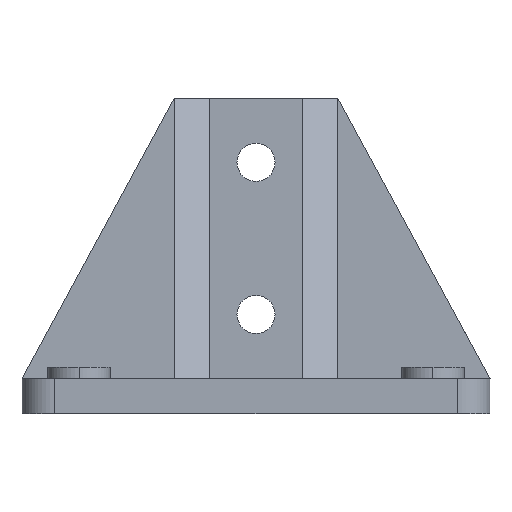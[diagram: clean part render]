
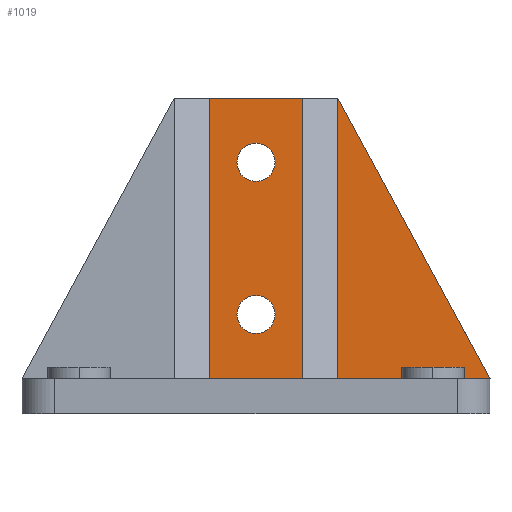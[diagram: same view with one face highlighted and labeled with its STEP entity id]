
A CAD part, front view. The second image highlights one B-rep face of the part: STEP entity #1019.
In plain terms, the highlighted planar face has unit normal (0, -1, 0).
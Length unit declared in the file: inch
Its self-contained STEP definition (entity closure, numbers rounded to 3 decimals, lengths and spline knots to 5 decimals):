
#415=EDGE_CURVE('',#1100,#1057,#1125,.T.);
#419=EDGE_CURVE('',#1130,#1131,#1132,.T.);
#487=EDGE_CURVE('',#1247,#1248,#1249,.T.);
#509=EDGE_CURVE('',#1248,#1100,#1284,.T.);
#511=EDGE_CURVE('',#1260,#1286,#1287,.T.);
#517=EDGE_CURVE('',#1295,#1296,#1297,.T.);
#557=EDGE_CURVE('',#1296,#1130,#1363,.T.);
#597=EDGE_CURVE('',#1286,#1057,#1428,.T.);
#637=EDGE_CURVE('',#1486,#1260,#1487,.T.);
#695=EDGE_CURVE('',#1158,#1387,#1575,.T.);
#811=EDGE_CURVE('',#1387,#1436,#1722,.T.);
#835=EDGE_CURVE('',#1131,#1295,#1751,.T.);
#877=EDGE_CURVE('',#1436,#1402,#1798,.T.);
#891=EDGE_CURVE('',#1402,#1158,#1816,.T.);
#977=EDGE_CURVE('',#1486,#1247,#1918,.T.);
#1019=ADVANCED_FACE('',(#1968,#1969,#1970),#1971,.T.);
#1057=VERTEX_POINT('',#2032);
#1100=VERTEX_POINT('',#2117);
#1125=LINE('',#2163,#2164);
#1130=VERTEX_POINT('',#2177);
#1131=VERTEX_POINT('',#2178);
#1132=B_SPLINE_CURVE_WITH_KNOTS('',3,(#2179,#2180,#2181,#2182),.UNSPECIFIED.,.F.,.F.,(4,4),(0.0,1.0),.UNSPECIFIED.);
#1158=VERTEX_POINT('',#2243);
#1247=VERTEX_POINT('',#2415);
#1248=VERTEX_POINT('',#2416);
#1249=LINE('',#2417,#2418);
#1260=VERTEX_POINT('',#2439);
#1284=LINE('',#2482,#2483);
#1286=VERTEX_POINT('',#2486);
#1287=LINE('',#2487,#2488);
#1295=VERTEX_POINT('',#2506);
#1296=VERTEX_POINT('',#2507);
#1297=B_SPLINE_CURVE_WITH_KNOTS('',3,(#2508,#2509,#2510,#2511),.UNSPECIFIED.,.F.,.F.,(4,4),(0.0,1.0),.UNSPECIFIED.);
#1363=B_SPLINE_CURVE_WITH_KNOTS('',3,(#2633,#2634,#2635,#2636),.UNSPECIFIED.,.F.,.F.,(4,4),(0.0,1.0),.UNSPECIFIED.);
#1387=VERTEX_POINT('',#2676);
#1402=VERTEX_POINT('',#2706);
#1428=LINE('',#2749,#2750);
#1436=VERTEX_POINT('',#2761);
#1486=VERTEX_POINT('',#2875);
#1487=LINE('',#2876,#2877);
#1575=B_SPLINE_CURVE_WITH_KNOTS('',3,(#3036,#3037,#3038,#3039),.UNSPECIFIED.,.F.,.F.,(4,4),(0.0,1.0),.UNSPECIFIED.);
#1722=B_SPLINE_CURVE_WITH_KNOTS('',3,(#3354,#3355,#3356,#3357),.UNSPECIFIED.,.F.,.F.,(4,4),(0.0,1.0),.UNSPECIFIED.);
#1751=B_SPLINE_CURVE_WITH_KNOTS('',3,(#3418,#3419,#3420,#3421),.UNSPECIFIED.,.F.,.F.,(4,4),(0.0,1.0),.UNSPECIFIED.);
#1798=B_SPLINE_CURVE_WITH_KNOTS('',3,(#3534,#3535,#3536,#3537),.UNSPECIFIED.,.F.,.F.,(4,4),(0.0,1.0),.UNSPECIFIED.);
#1816=B_SPLINE_CURVE_WITH_KNOTS('',3,(#3569,#3570,#3571,#3572),.UNSPECIFIED.,.F.,.F.,(4,4),(0.0,1.0),.UNSPECIFIED.);
#1918=LINE('',#3833,#3834);
#1968=FACE_OUTER_BOUND('',#3941,.T.);
#1969=FACE_BOUND('',#3942,.T.);
#1970=FACE_BOUND('',#3943,.T.);
#1971=PLANE('',#3944);
#2032=CARTESIAN_POINT('',(1.79637,0.,0.00001));
#2117=CARTESIAN_POINT('',(2.17137,0.0,0.00001));
#2163=CARTESIAN_POINT('',(2.23387,0.,0.00001));
#2164=VECTOR('',#4032,1.0);
#2177=CARTESIAN_POINT('',(2.67137,0.,2.51563));
#2178=CARTESIAN_POINT('',(2.8745,0.,2.31249));
#2179=CARTESIAN_POINT('',(2.67137,0.,2.51563));
#2180=CARTESIAN_POINT('',(2.78357,0.,2.51563));
#2181=CARTESIAN_POINT('',(2.8745,0.,2.42469));
#2182=CARTESIAN_POINT('',(2.8745,0.0,2.31249));
#2243=CARTESIAN_POINT('',(2.67137,0.,0.48437));
#2415=CARTESIAN_POINT('',(3.54637,0.,3.0));
#2416=CARTESIAN_POINT('',(2.17137,0.0,3.0));
#2417=CARTESIAN_POINT('',(3.54637,0.,3.0));
#2418=VECTOR('',#4131,1.0);
#2439=CARTESIAN_POINT('',(5.17119,0.,0.0));
#2482=CARTESIAN_POINT('',(2.17137,0.,0.59836));
#2483=VECTOR('',#4175,1.0);
#2486=CARTESIAN_POINT('',(1.79637,0.,0.0));
#2487=CARTESIAN_POINT('',(3.54637,0.,0.0));
#2488=VECTOR('',#4176,1.0);
#2506=CARTESIAN_POINT('',(2.67137,0.,2.10937));
#2507=CARTESIAN_POINT('',(2.46825,0.,2.31249));
#2508=CARTESIAN_POINT('',(2.67137,0.,2.10937));
#2509=CARTESIAN_POINT('',(2.5592,0.,2.10937));
#2510=CARTESIAN_POINT('',(2.46825,0.,2.20032));
#2511=CARTESIAN_POINT('',(2.46825,0.,2.31249));
#2633=CARTESIAN_POINT('',(2.46825,0.,2.31249));
#2634=CARTESIAN_POINT('',(2.46825,0.,2.42469));
#2635=CARTESIAN_POINT('',(2.5592,0.,2.51563));
#2636=CARTESIAN_POINT('',(2.67137,0.,2.51563));
#2676=CARTESIAN_POINT('',(2.46825,0.,0.68749));
#2706=CARTESIAN_POINT('',(2.8745,0.,0.68749));
#2749=CARTESIAN_POINT('',(1.79637,0.,0.0));
#2750=VECTOR('',#4319,1.0);
#2761=CARTESIAN_POINT('',(2.67137,0.,0.89062));
#2875=CARTESIAN_POINT('',(3.54637,0.,2.99966));
#2876=CARTESIAN_POINT('',(3.54619,0.,2.99999));
#2877=VECTOR('',#4363,1.0);
#3036=CARTESIAN_POINT('',(2.67137,0.,0.48437));
#3037=CARTESIAN_POINT('',(2.5592,0.,0.48437));
#3038=CARTESIAN_POINT('',(2.46825,0.,0.57532));
#3039=CARTESIAN_POINT('',(2.46825,0.,0.68749));
#3354=CARTESIAN_POINT('',(2.46825,0.,0.68749));
#3355=CARTESIAN_POINT('',(2.46825,0.,0.79969));
#3356=CARTESIAN_POINT('',(2.5592,0.,0.89062));
#3357=CARTESIAN_POINT('',(2.67137,0.,0.89062));
#3418=CARTESIAN_POINT('',(2.8745,0.,2.31249));
#3419=CARTESIAN_POINT('',(2.8745,0.,2.20032));
#3420=CARTESIAN_POINT('',(2.78357,0.,2.10937));
#3421=CARTESIAN_POINT('',(2.67137,0.,2.10937));
#3534=CARTESIAN_POINT('',(2.67137,0.,0.89062));
#3535=CARTESIAN_POINT('',(2.78357,0.,0.89062));
#3536=CARTESIAN_POINT('',(2.8745,0.,0.79969));
#3537=CARTESIAN_POINT('',(2.8745,0.,0.68749));
#3569=CARTESIAN_POINT('',(2.8745,0.,0.68749));
#3570=CARTESIAN_POINT('',(2.8745,0.,0.57532));
#3571=CARTESIAN_POINT('',(2.78357,0.,0.48437));
#3572=CARTESIAN_POINT('',(2.67137,0.,0.48437));
#3833=CARTESIAN_POINT('',(3.54637,0.,0.0));
#3834=VECTOR('',#4852,1.0);
#3941=EDGE_LOOP('',(#4920,#4921,#4922,#4923,#4924,#4925,#4926));
#3942=EDGE_LOOP('',(#4927,#4928,#4929,#4930));
#3943=EDGE_LOOP('',(#4931,#4932,#4933,#4934));
#3944=AXIS2_PLACEMENT_3D('',#4935,#4936,#4937);
#4032=DIRECTION('',(-1.0,-0.0,-0.0));
#4131=DIRECTION('',(-1.0,0.0,0.0));
#4175=DIRECTION('',(0.,-0.0,-1.0));
#4176=DIRECTION('',(-1.0,0.0,0.0));
#4319=DIRECTION('',(0.0,0.0,1.0));
#4363=DIRECTION('',(0.476,0.,-0.879));
#4852=DIRECTION('',(0.0,0.0,1.0));
#4920=ORIENTED_EDGE('',*,*,#509,.T.);
#4921=ORIENTED_EDGE('',*,*,#415,.T.);
#4922=ORIENTED_EDGE('',*,*,#597,.F.);
#4923=ORIENTED_EDGE('',*,*,#511,.F.);
#4924=ORIENTED_EDGE('',*,*,#637,.F.);
#4925=ORIENTED_EDGE('',*,*,#977,.T.);
#4926=ORIENTED_EDGE('',*,*,#487,.T.);
#4927=ORIENTED_EDGE('',*,*,#811,.T.);
#4928=ORIENTED_EDGE('',*,*,#877,.T.);
#4929=ORIENTED_EDGE('',*,*,#891,.T.);
#4930=ORIENTED_EDGE('',*,*,#695,.T.);
#4931=ORIENTED_EDGE('',*,*,#557,.T.);
#4932=ORIENTED_EDGE('',*,*,#419,.T.);
#4933=ORIENTED_EDGE('',*,*,#835,.T.);
#4934=ORIENTED_EDGE('',*,*,#517,.T.);
#4935=CARTESIAN_POINT('',(2.67137,0.,0.0));
#4936=DIRECTION('',(0.0,-1.0,0.0));
#4937=DIRECTION('',(1.0,0.0,-0.0));
